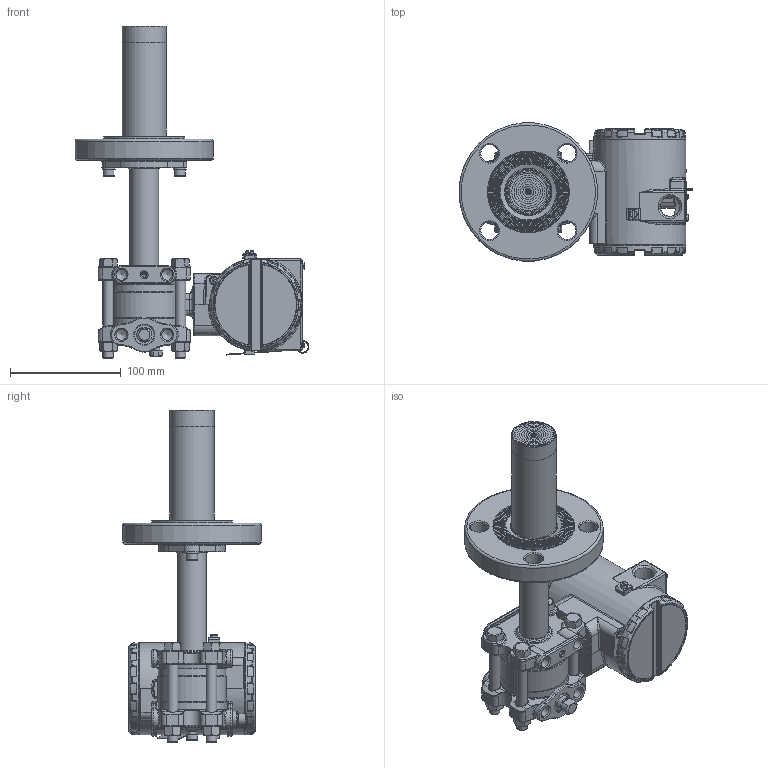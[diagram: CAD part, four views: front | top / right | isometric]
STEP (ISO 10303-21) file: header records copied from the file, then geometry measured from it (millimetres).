
FILE_DESCRIPTION(/* description */ (''),/* implementation_level */ '2;1');
FILE_NAME(/* name */ 'F:\Area\Desenvolvimento_2\Projects\Sensor\projetos\LD30X\montagens 3d - clientes\SELO NIVEL\LD30XL 1-1-2-150 RF ext 100 ref 1-4NPT purga acima.stp',/* time_stamp */ '2023-02-10T14:20:47-03:00',/* author */ ('inventor02'),/* organization */ (''),/* preprocessor_version */ 'ST-DEVELOPER v17',/* originating_system */ 'Autodesk Inventor 2019',/* authorisation */ '');
FILE_SCHEMA (('CONFIG_CONTROL_DESIGN'));
Products named in the file (41): LD30XL 1-1-2-150 RF ext 100 ref 1-4NPT purga acima; 204-0301-L-1-1-2 150 RF ext 100 purga acima; nivel fx3 com baixa diferencial 1-4NPT purga acima; involucro fx0-3 apos a usinagem final; flange diferencial std purga; 101-C-7484-01 flange selo nivel VR; 201-A-0504-tubo união teste 1; bujao 1-4NPT; Sangria; Porca 3-8 x 16 UNC; Paraf. 3-8 x 16 UNC; adaptação tubo x flanges 1-1-2 a 4pol; 101-B-0161-anel cortado do tubo - teste1; 101-B-0162-flange fixação tubo; ANSI B18.3.1M - M6x1 x 16; DIN 127 - A 6; flange 1-1-2 150 ext 100; 101-B-7699-01 ext 2-100; 101-B-5190-03; 101-C-3330-02; carcaça vazia com tampas e plaqueta; carcaça LD inox sem letras; Subconjunto plaqueta 300; Plaqueta transmissor; Parafuso da Plaqueta; Rebite da Plaqueta; 096-A-0169-03; 101-A-0502-01; Chapa aterramento externo; ISO 1207 - M4 x 8; DIN 915 - M6 x 10; ANSI B18.3.1M - M4x0,7 x 8; Subconjunto tampa com visor aluminio; tampa pintada; VIDRO DO VISOR; oring 41x1 vidro tampa; Trava do vidro da tampa com visor; trava do vidro VH256; Subconjunto tampa sem visor-aluminio; tampa cega 300 pintada p0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
Assembly tree (51 placements, depth 4):
  LD30XL 1-1-2-150 RF ext 100 ref 1-4NPT purga acima
    204-0301-L-1-1-2 150 RF ext 100 purga acima
      nivel fx3 com baixa diferencial 1-4NPT purga acima
        involucro fx0-3 apos a usinagem final
        flange diferencial std purga
        101-C-7484-01 flange selo nivel VR
        201-A-0504-tubo união teste 1
        DIN 915 - M6 x 10
        bujao 1-4NPT
        Sangria
        Porca 3-8 x 16 UNC  x4
        Paraf. 3-8 x 16 UNC  x4
      adaptação tubo x flanges 1-1-2 a 4pol
        101-B-0161-anel cortado do tubo - teste1
        101-B-0162-flange fixação tubo
        ANSI B18.3.1M - M6x1 x 16  x2
        DIN 127 - A 6  x2
      flange 1-1-2 150 ext 100
        101-B-7699-01 ext 2-100
        101-B-5190-03
        101-C-3330-02
    carcaça vazia com tampas e plaqueta
      carcaça LD inox sem letras
      Subconjunto plaqueta 300
        Plaqueta transmissor
        Parafuso da Plaqueta
        Rebite da Plaqueta
        096-A-0169-03
        101-A-0502-01
      Chapa aterramento externo
      ISO 1207 - M4 x 8
      DIN 915 - M6 x 10
      ANSI B18.3.1M - M4x0,7 x 8  x2
      Subconjunto tampa com visor aluminio
        tampa pintada
        VIDRO DO VISOR
        oring 41x1 vidro tampa
        Trava do vidro da tampa com visor
        trava do vidro VH256
        00034775-0
      Subconjunto tampa sem visor-aluminio
        tampa cega 300 pintada p0
        00034775-0
Bounding box: 210.54 x 124.52 x 299.3 mm (x, y, z)
Volume: 874812.3 mm3; surface area: 316242.9 mm2
Topology: 43 solids, 43 shells, 2726 faces, 6537 edges, 3867 vertices
Faces by surface type: bspline 667, cylinder 656, plane 560, torus 469, cone 248, sphere 126
Full cylindrical faces by diameter (mm): 2 x4, 2.1 x2, 2.459 x5, 2.5 x1, 2.642 x1, 2.7 x1, 2.8 x1, 3 x4, 3.242 x4, 3.5 x5, 3.571 x1, 4 x5, 4.3 x1, 4.4 x1, 4.917 x4, 5 x1, 5.5 x3, 6 x6, 6.647 x1, 7 x7, 7.087 x2, 7.6 x2, 7.798 x4, 8 x1, 8.7 x2, 9.525 x4, 9.728 x6, 10 x2, 10.5 x8, 10.719 x2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
Entity records: 94293 total; most frequent: CARTESIAN_POINT 34605, DIRECTION 12303, ORIENTED_EDGE 12254, EDGE_CURVE 6127, AXIS2_PLACEMENT_3D 5430, VERTEX_POINT 3673, CIRCLE 3215, EDGE_LOOP 2766
